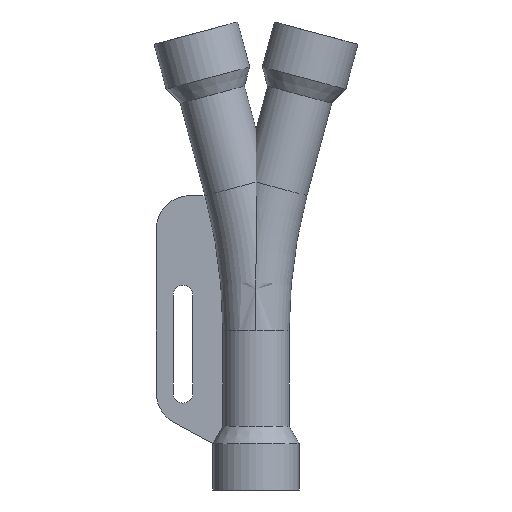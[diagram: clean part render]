
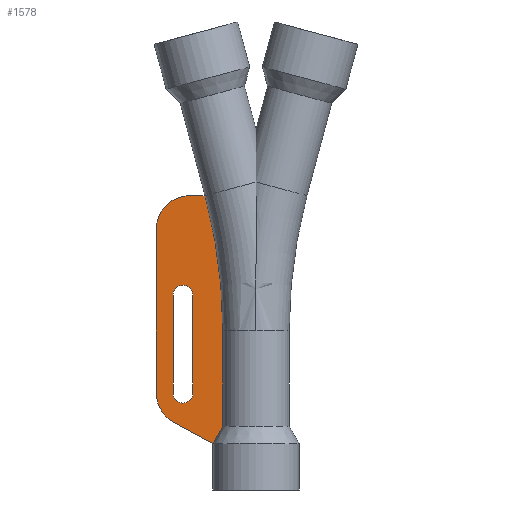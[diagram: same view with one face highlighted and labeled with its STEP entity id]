
A CAD part, front view. The second image highlights one B-rep face of the part: STEP entity #1578.
In plain terms, the highlighted planar face has unit normal (0, -1, 0).
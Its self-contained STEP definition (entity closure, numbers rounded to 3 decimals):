
#53=FACE_BOUND('',#273,.T.);
#95=PLANE('',#1716);
#170=FACE_OUTER_BOUND('',#272,.T.);
#272=EDGE_LOOP('',(#1295,#1296,#1297,#1298,#1299,#1300,#1301,#1302));
#273=EDGE_LOOP('',(#1303,#1304,#1305,#1306));
#425=LINE('',#2520,#582);
#428=LINE('',#2527,#585);
#431=LINE('',#2536,#588);
#434=LINE('',#2544,#591);
#437=LINE('',#2549,#594);
#438=LINE('',#2552,#595);
#439=LINE('',#2554,#596);
#582=VECTOR('',#2028,10.);
#585=VECTOR('',#2037,10.);
#588=VECTOR('',#2046,10.);
#591=VECTOR('',#2055,10.);
#594=VECTOR('',#2060,10.);
#595=VECTOR('',#2063,10.);
#596=VECTOR('',#2064,10.);
#663=CIRCLE('',#1704,1.5);
#664=CIRCLE('',#1707,1.5);
#665=CIRCLE('',#1710,5.);
#666=CIRCLE('',#1713,5.);
#667=CIRCLE('',#1717,78.553);
#781=VERTEX_POINT('',#2513);
#782=VERTEX_POINT('',#2515);
#783=VERTEX_POINT('',#2519);
#784=VERTEX_POINT('',#2523);
#785=VERTEX_POINT('',#2529);
#786=VERTEX_POINT('',#2531);
#787=VERTEX_POINT('',#2535);
#788=VERTEX_POINT('',#2539);
#789=VERTEX_POINT('',#2543);
#790=VERTEX_POINT('',#2547);
#791=VERTEX_POINT('',#2551);
#792=VERTEX_POINT('',#2553);
#956=EDGE_CURVE('',#782,#781,#663,.T.);
#958=EDGE_CURVE('',#783,#782,#425,.T.);
#960=EDGE_CURVE('',#784,#783,#664,.T.);
#962=EDGE_CURVE('',#781,#784,#428,.T.);
#964=EDGE_CURVE('',#786,#785,#665,.T.);
#966=EDGE_CURVE('',#787,#786,#431,.T.);
#968=EDGE_CURVE('',#788,#787,#666,.T.);
#970=EDGE_CURVE('',#789,#788,#434,.T.);
#973=EDGE_CURVE('',#785,#790,#437,.T.);
#974=EDGE_CURVE('',#791,#790,#438,.T.);
#975=EDGE_CURVE('',#792,#791,#439,.T.);
#976=EDGE_CURVE('',#789,#792,#667,.T.);
#1295=ORIENTED_EDGE('',*,*,#973,.T.);
#1296=ORIENTED_EDGE('',*,*,#974,.F.);
#1297=ORIENTED_EDGE('',*,*,#975,.F.);
#1298=ORIENTED_EDGE('',*,*,#976,.F.);
#1299=ORIENTED_EDGE('',*,*,#970,.T.);
#1300=ORIENTED_EDGE('',*,*,#968,.T.);
#1301=ORIENTED_EDGE('',*,*,#966,.T.);
#1302=ORIENTED_EDGE('',*,*,#964,.T.);
#1303=ORIENTED_EDGE('',*,*,#962,.T.);
#1304=ORIENTED_EDGE('',*,*,#960,.T.);
#1305=ORIENTED_EDGE('',*,*,#958,.T.);
#1306=ORIENTED_EDGE('',*,*,#956,.T.);
#1578=ADVANCED_FACE('',(#170,#53),#95,.F.);
#1704=AXIS2_PLACEMENT_3D('',#2516,#2023,#2024);
#1707=AXIS2_PLACEMENT_3D('',#2524,#2032,#2033);
#1710=AXIS2_PLACEMENT_3D('',#2532,#2041,#2042);
#1713=AXIS2_PLACEMENT_3D('',#2540,#2050,#2051);
#1716=AXIS2_PLACEMENT_3D('',#2550,#2061,#2062);
#1717=AXIS2_PLACEMENT_3D('',#2555,#2065,#2066);
#2023=DIRECTION('center_axis',(0.,1.,0.));
#2024=DIRECTION('ref_axis',(-1.,0.,0.));
#2028=DIRECTION('',(0.,0.,1.));
#2032=DIRECTION('center_axis',(0.,1.,0.));
#2033=DIRECTION('ref_axis',(1.,0.,0.));
#2037=DIRECTION('',(0.,0.,-1.));
#2041=DIRECTION('center_axis',(0.,-1.,0.));
#2042=DIRECTION('ref_axis',(0.,0.,
-1.));
#2046=DIRECTION('',(0.,0.,-1.));
#2050=DIRECTION('center_axis',(0.,-1.,0.));
#2051=DIRECTION('ref_axis',(-1.,0.,0.));
#2055=DIRECTION('',(-1.,0.,0.));
#2060=DIRECTION('',(0.878,0.,-0.478));
#2061=DIRECTION('center_axis',(0.,1.,0.));
#2062=DIRECTION('ref_axis',(-1.,0.,0.));
#2063=DIRECTION('',(-0.5,0.,-0.866));
#2064=DIRECTION('',(0.,0.,-1.));
#2065=DIRECTION('center_axis',(0.,1.,0.));
#2066=DIRECTION('ref_axis',(0.966,0.,0.259));
#2513=CARTESIAN_POINT('',(-9.5,5.3,22.331));
#2515=CARTESIAN_POINT('',(-12.5,5.3,22.331));
#2516=CARTESIAN_POINT('Origin',(-11.,5.3,22.331));
#2519=CARTESIAN_POINT('',(-12.5,5.3,7.598));
#2520=CARTESIAN_POINT('',(-12.5,5.3,7.598));
#2523=CARTESIAN_POINT('',(-9.5,5.3,7.598));
#2524=CARTESIAN_POINT('Origin',(-11.,5.3,7.598));
#2527=CARTESIAN_POINT('',(-9.5,5.3,22.331));
#2529=CARTESIAN_POINT('',(-12.391,5.3,3.207));
#2531=CARTESIAN_POINT('',(-15.,5.3,7.598));
#2532=CARTESIAN_POINT('Origin',(-10.,5.3,7.598));
#2535=CARTESIAN_POINT('',(-15.,5.3,32.331));
#2536=CARTESIAN_POINT('',(-15.,5.3,32.331));
#2539=CARTESIAN_POINT('',(-10.,5.3,37.331));
#2540=CARTESIAN_POINT('Origin',(-10.,5.3,32.331));
#2543=CARTESIAN_POINT('',(-7.677,5.3,37.331));
#2544=CARTESIAN_POINT('',(-7.677,5.3,37.331));
#2547=CARTESIAN_POINT('',(-6.5,5.3,0.));
#2549=CARTESIAN_POINT('',(-6.5,5.3,0.));
#2550=CARTESIAN_POINT('Origin',(0.,5.3,28.245));
#2551=CARTESIAN_POINT('',(-5.,5.3,2.598));
#2552=CARTESIAN_POINT('',(1.178,5.3,13.298));
#2553=CARTESIAN_POINT('',(-5.,5.3,17.));
#2554=CARTESIAN_POINT('',(-5.,5.3,15.622));
#2555=CARTESIAN_POINT('Origin',(-83.553,5.3,17.));
